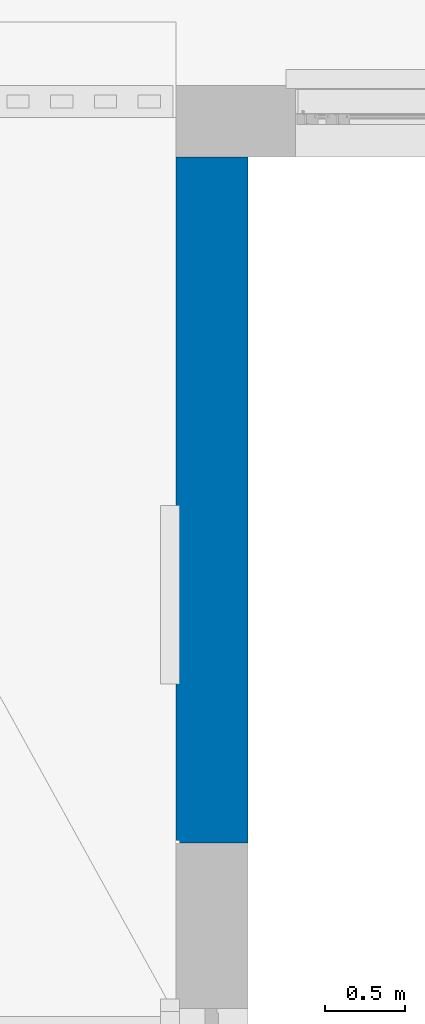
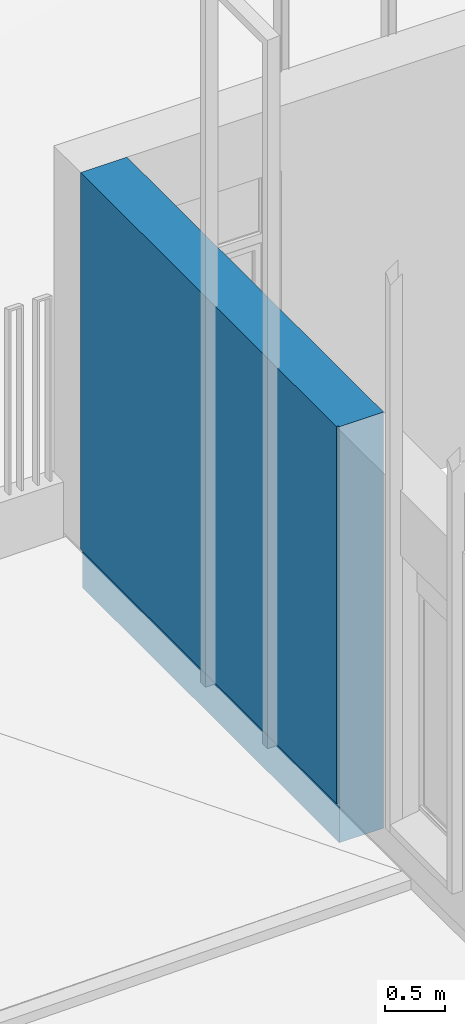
# One storey, part 22 of 77: 1 wall, 2 openings.
"""IFC2X3 building model written with IfcOpenShell, lengths in millimetres."""

from ifc_helpers import new_model, entity, si_unit, converted_unit, derived_unit, direction, frame, frame_2d, origin, place, context, subcontext, project, spatial, rectangle, extrude, faceted_brep, material, layer, layer_set, layer_usage, type_object, element, save


model = new_model("IFC2X3")

# Units and contexts
model_context = context("Model", 3, precision=0.01, world=origin(), true_north=direction((6.12303176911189e-17, 1.0)))
body_context = subcontext(model_context, "Body", "Model", "MODEL_VIEW")
ifc_project = project(units=[si_unit("LENGTHUNIT", "METRE", prefix="MILLI"), si_unit("AREAUNIT", "SQUARE_METRE"), si_unit("VOLUMEUNIT", "CUBIC_METRE"), converted_unit("PLANEANGLEUNIT", "DEGREE", entity("IfcRatioMeasure", 0.0174532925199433), si_unit("PLANEANGLEUNIT", "RADIAN"), dimensions=[0, 0, 0, 0, 0, 0, 0]), si_unit("MASSUNIT", "GRAM", prefix="KILO"), derived_unit("MASSDENSITYUNIT", [(si_unit("MASSUNIT", "GRAM", prefix="KILO"), 1), (si_unit("LENGTHUNIT", "METRE"), -3)]), si_unit("TIMEUNIT", "SECOND"), si_unit("FREQUENCYUNIT", "HERTZ"), si_unit("THERMODYNAMICTEMPERATUREUNIT", "DEGREE_CELSIUS"), derived_unit("THERMALTRANSMITTANCEUNIT", [(si_unit("MASSUNIT", "GRAM", prefix="KILO"), 1), (si_unit("THERMODYNAMICTEMPERATUREUNIT", "KELVIN"), -1), (si_unit("TIMEUNIT", "SECOND"), -3)]), derived_unit("VOLUMETRICFLOWRATEUNIT", [(si_unit("LENGTHUNIT", "METRE"), 3), (si_unit("TIMEUNIT", "SECOND"), -1)]), si_unit("ELECTRICCURRENTUNIT", "AMPERE"), si_unit("ELECTRICVOLTAGEUNIT", "VOLT"), si_unit("POWERUNIT", "WATT"), si_unit("FORCEUNIT", "NEWTON", prefix="KILO"), si_unit("ILLUMINANCEUNIT", "LUX"), si_unit("LUMINOUSFLUXUNIT", "LUMEN"), si_unit("LUMINOUSINTENSITYUNIT", "CANDELA"), derived_unit("USERDEFINED", [(si_unit("MASSUNIT", "GRAM", prefix="KILO"), -1), (si_unit("LENGTHUNIT", "METRE"), -2), (si_unit("TIMEUNIT", "SECOND"), 3), (si_unit("LUMINOUSFLUXUNIT", "LUMEN"), 1)]), derived_unit("LINEARVELOCITYUNIT", [(si_unit("LENGTHUNIT", "METRE"), 1), (si_unit("TIMEUNIT", "SECOND"), -1)]), si_unit("PRESSUREUNIT", "PASCAL"), derived_unit("USERDEFINED", [(si_unit("LENGTHUNIT", "METRE"), -2), (si_unit("MASSUNIT", "GRAM", prefix="KILO"), 1), (si_unit("TIMEUNIT", "SECOND"), -2)])], contexts=[model_context])

# Site, building, storey
site_placement = place(None, origin())
site = spatial("IfcSite", under=ifc_project, at=site_placement, Name="Default", CompositionType="ELEMENT")
building_placement = place(site_placement, origin())
building = spatial("IfcBuilding", under=site, at=building_placement, CompositionType="ELEMENT")
storey_placement = place(building_placement, origin())
storey = spatial("IfcBuildingStorey", under=building, at=storey_placement, Name="1. KORRUS", CompositionType="ELEMENT", Elevation=0.0)

# Wall, openings
ifc_material_1 = material(Name="RECKLI 1 173 THUR by Polantis 2016-toon4")
ifc_layer_1 = layer(ifc_material_1, 100.0)
ifc_material_2 = material(Name="Soojusisolatsioon EPS")
ifc_layer_2 = layer(ifc_material_2, 200.0)
ifc_material_3 = material(Name="r/b")
ifc_layer_3 = layer(ifc_material_3, 150.0)
ifc_layer_set = layer_set([ifc_layer_1, ifc_layer_2, ifc_layer_3], Name="Basic Wall:VS-1_toon-a")
ifc_layer_usage = layer_usage(ifc_layer_set, "AXIS2", "POSITIVE", -225.0)
wall_type = type_object("IfcWallType", Name="Basic Wall:VS-1_toon-a", PredefinedType="STANDARD", material=ifc_layer_set)
wall_placement = place(storey_placement, frame((-225.0, 27600.0, -400.0), z_axis=(0.0, 0.0, 1.0), x_axis=(0.0, -1.0, 0.0)))
wall = element("IfcWallStandardCase", 1, at=wall_placement, inside=storey, type_object=wall_type, material=ifc_layer_usage, Name="Basic Wall:VS-1_toon-a", ObjectType="Basic Wall:VS-1_toon-a", context=body_context, shape_type="SweptSolid", body=[
    extrude(rectangle(XDim=4310.0, YDim=450.0, at=frame_2d((2155.0, -2.8421709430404e-14), x_axis=(-1.0, 0.0))), origin(), (0.0, 0.0, 1.0), 4265.0),
])
opening_1_placement = place(wall_placement, origin())
element("IfcOpeningElement", 2, at=opening_1_placement, cuts=wall, Name="Basic Wall:VS-1_toon-a", ObjectType="Opening", context=body_context, shape_type="Brep", body=[
    faceted_brep([(-430.0, -205.0, 400.0), (-430.0, -205.0, 0.0), (-450.0, -225.0, 0.0), (-450.0, -225.0, 400.0), (4310.0, -205.0, 400.0), (4310.0, -225.0, 400.0), (4310.0, -225.0, 0.0), (4310.0, -205.0, 0.0)], [[[0, 1, 2, 3]], [[4, 5, 6, 7]], [[1, 0, 4, 7]], [[2, 1, 7, 6]], [[3, 2, 6, 5]], [[0, 3, 5, 4]]]),
    faceted_brep([(-430.0, -205.0, 400.0), (-450.0, -225.0, 400.0), (-450.0, -225.0, 0.0), (-430.0, -205.0, 0.0), (-430.0, 4135.0, 400.0), (-430.0, 4135.0, 0.0), (-450.0, 4135.0, 0.0), (-450.0, 4135.0, 400.0)], [[[0, 1, 2, 3]], [[4, 5, 6, 7]], [[1, 0, 4, 7]], [[2, 1, 7, 6]], [[3, 2, 6, 5]], [[0, 3, 5, 4]]]),
    faceted_brep([(-430.0, 9855.0, 400.0), (-450.0, 9875.0, 400.0), (-450.0, 9875.0, 0.0), (-430.0, 9855.0, 0.0), (5669.94821928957, 9855.0, 400.0), (5669.94821928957, 9855.0, 0.0), (5649.94821928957, 9875.0, 0.0), (5649.94821928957, 9875.0, 400.0)], [[[0, 1, 2, 3]], [[4, 5, 6, 7]], [[1, 0, 4, 7]], [[2, 1, 7, 6]], [[3, 2, 6, 5]], [[0, 3, 5, 4]]]),
    faceted_brep([(5669.94821928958, 14575.0, 400.0), (5649.94821928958, 14575.0, 400.0), (5649.94821928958, 14575.0, 0.0), (5669.94821928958, 14575.0, 0.0), (5669.94821928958, 15105.0, 400.0), (5669.94821928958, 15105.0, 0.0), (5649.94821928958, 15105.0, 0.0), (5649.94821928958, 15105.0, 400.0)], [[[0, 1, 2, 3]], [[4, 5, 6, 7]], [[1, 0, 4, 7]], [[2, 1, 7, 6]], [[3, 2, 6, 5]], [[0, 3, 5, 4]]]),
    faceted_brep([(5669.94821928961, 40155.0, 400.0), (5649.94821928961, 40175.0, 400.0), (5649.94821928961, 40175.0, 0.0), (5669.94821928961, 40155.0, 0.0), (11810.0, 40155.0, 400.0), (11810.0, 40155.0, 0.0), (11810.0, 40175.0, 0.0), (11810.0, 40175.0, 400.0)], [[[0, 1, 2, 3]], [[4, 5, 6, 7]], [[1, 0, 4, 7]], [[2, 1, 7, 6]], [[3, 2, 6, 5]], [[0, 3, 5, 4]]]),
    faceted_brep([(28030.0, 40155.0, 400.0), (28050.0, 40175.0, 400.0), (28050.0, 40175.0, 0.0), (28030.0, 40155.0, 0.0), (28030.0, 35025.0, 400.0), (28030.0, 35025.0, 0.0), (28050.0, 35025.0, 0.0), (28050.0, 35025.0, 400.0)], [[[0, 1, 2, 3]], [[4, 5, 6, 7]], [[1, 0, 4, 7]], [[2, 1, 7, 6]], [[3, 2, 6, 5]], [[0, 3, 5, 4]]]),
    faceted_brep([(28030.0, 11625.0, 400.0), (28050.0, 11625.0, 400.0), (28050.0, 11625.0, 0.0), (28030.0, 11625.0, 0.0), (28030.0, 7840.0, 400.0), (28030.0, 7840.0, 0.0), (28050.0, 7840.0, 0.0), (28050.0, 7840.0, 400.0)], [[[0, 1, 2, 3]], [[4, 5, 6, 7]], [[1, 0, 4, 7]], [[2, 1, 7, 6]], [[3, 2, 6, 5]], [[0, 3, 5, 4]]]),
    faceted_brep([(14840.0, 40155.0, 400.0), (14840.0, 40175.0, 400.0), (14840.0, 40175.0, 0.0), (14840.0, 40155.0, 0.0), (18956.67, 40155.0, 400.0), (18956.67, 40155.0, 0.0), (18956.67, 40175.0, 0.0), (18956.67, 40175.0, 400.0)], [[[0, 1, 2, 3]], [[4, 5, 6, 7]], [[1, 0, 4, 7]], [[2, 1, 7, 6]], [[3, 2, 6, 5]], [[0, 3, 5, 4]]]),
    faceted_brep([(28030.0, 31425.0, 400.0), (28050.0, 31425.0, 400.0), (28050.0, 31425.0, 0.0), (28030.0, 31425.0, 0.0), (28030.0, 29025.0, 400.0), (28030.0, 29025.0, 0.0), (28050.0, 29025.0, 0.0), (28050.0, 29025.0, 400.0)], [[[0, 1, 2, 3]], [[4, 5, 6, 7]], [[1, 0, 4, 7]], [[2, 1, 7, 6]], [[3, 2, 6, 5]], [[0, 3, 5, 4]]]),
    faceted_brep([(28030.0, 4015.030823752, 400.0), (28050.0, 4015.030823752, 400.0), (28050.0, 4015.030823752, 0.0), (28030.0, 4015.030823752, 0.0), (28030.0, 1530.030823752, 400.0), (28030.0, 1530.030823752, 0.0), (28050.0, 1530.030823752, 0.0), (28050.0, 1530.030823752, 400.0)], [[[0, 1, 2, 3]], [[4, 5, 6, 7]], [[1, 0, 4, 7]], [[2, 1, 7, 6]], [[3, 2, 6, 5]], [[0, 3, 5, 4]]]),
    faceted_brep([(28030.0, 16225.0, 400.0), (28050.0, 16225.0, 400.0), (28050.0, 16225.0, 0.0), (28030.0, 16225.0, 0.0), (28030.0, 15225.0, 400.0), (28030.0, 15225.0, 0.0), (28050.0, 15225.0, 0.0), (28050.0, 15225.0, 400.0)], [[[0, 1, 2, 3]], [[4, 5, 6, 7]], [[1, 0, 4, 7]], [[2, 1, 7, 6]], [[3, 2, 6, 5]], [[0, 3, 5, 4]]]),
    faceted_brep([(28030.0, 20825.0316629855, 400.0), (28050.0, 20825.0316629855, 400.0), (28050.0, 20825.0316629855, 0.0), (28030.0, 20825.0316629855, 0.0), (28030.0, 19825.0, 400.0), (28030.0, 19825.0, 0.0), (28050.0, 19825.0, 0.0), (28050.0, 19825.0, 400.0)], [[[0, 1, 2, 3]], [[4, 5, 6, 7]], [[1, 0, 4, 7]], [[2, 1, 7, 6]], [[3, 2, 6, 5]], [[0, 3, 5, 4]]]),
    faceted_brep([(28030.0, 25425.0316629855, 400.0), (28050.0, 25425.0316629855, 400.0), (28050.0, 25425.0316629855, 0.0), (28030.0, 25425.0316629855, 0.0), (28030.0, 24425.0, 400.0), (28030.0, 24425.0, 0.0), (28050.0, 24425.0, 0.0), (28050.0, 24425.0, 400.0)], [[[0, 1, 2, 3]], [[4, 5, 6, 7]], [[1, 0, 4, 7]], [[2, 1, 7, 6]], [[3, 2, 6, 5]], [[0, 3, 5, 4]]]),
    faceted_brep([(23185.0, 40155.0, 400.0), (23185.0, 40175.0, 400.0), (23185.0, 40175.0, 0.0), (23185.0, 40155.0, 0.0), (28030.0, 40155.0, 400.0), (28030.0, 40155.0, 0.0), (28050.0, 40175.0, 0.0), (28050.0, 40175.0, 400.0)], [[[0, 1, 2, 3]], [[4, 5, 6, 7]], [[1, 0, 4, 7]], [[2, 1, 7, 6]], [[3, 2, 6, 5]], [[0, 3, 5, 4]]]),
    faceted_brep([(18956.67, 40155.0, 400.0), (18956.67, 40175.0, 400.0), (18956.67, 40175.0, 0.0), (18956.67, 40155.0, 0.0), (23185.0, 40155.0, 400.0), (23185.0, 40155.0, 0.0), (23185.0, 40175.0, 0.0), (23185.0, 40175.0, 400.0)], [[[0, 1, 2, 3]], [[4, 5, 6, 7]], [[1, 0, 4, 7]], [[2, 1, 7, 6]], [[3, 2, 6, 5]], [[0, 3, 5, 4]]]),
    faceted_brep([(11810.0, 40155.0, 400.0), (11810.0, 40175.0, 400.0), (11810.0, 40175.0, 0.0), (11810.0, 40155.0, 0.0), (14840.0, 40155.0, 400.0), (14840.0, 40155.0, 0.0), (14840.0, 40175.0, 0.0), (14840.0, 40175.0, 400.0)], [[[0, 1, 2, 3]], [[4, 5, 6, 7]], [[1, 0, 4, 7]], [[2, 1, 7, 6]], [[3, 2, 6, 5]], [[0, 3, 5, 4]]]),
    faceted_brep([(5669.9482192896, 34195.1035702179, 400.0), (5649.9482192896, 34195.1035702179, 400.0), (5649.9482192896, 34195.1035702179, 0.0), (5669.9482192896, 34195.1035702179, 0.0), (5669.94821928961, 40155.0, 400.0), (5669.94821928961, 40155.0, 0.0), (5649.94821928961, 40175.0, 0.0), (5649.94821928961, 40175.0, 400.0)], [[[0, 1, 2, 3]], [[4, 5, 6, 7]], [[1, 0, 4, 7]], [[2, 1, 7, 6]], [[3, 2, 6, 5]], [[0, 3, 5, 4]]]),
    faceted_brep([(5669.94821928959, 28888.2161487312, 400.0), (5649.94821928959, 28888.2161487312, 400.0), (5649.94821928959, 28888.2161487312, 0.0), (5669.94821928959, 28888.2161487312, 0.0), (5669.9482192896, 34195.1035702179, 400.0), (5669.9482192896, 34195.1035702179, 0.0), (5649.9482192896, 34195.1035702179, 0.0), (5649.9482192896, 34195.1035702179, 400.0)], [[[0, 1, 2, 3]], [[4, 5, 6, 7]], [[1, 0, 4, 7]], [[2, 1, 7, 6]], [[3, 2, 6, 5]], [[0, 3, 5, 4]]]),
    faceted_brep([(28030.0, 7840.0, 400.0), (28050.0, 7840.0, 400.0), (28050.0, 7840.0, 0.0), (28030.0, 7840.0, 0.0), (28030.0, 4015.030823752, 400.0), (28030.0, 4015.030823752, 0.0), (28050.0, 4015.030823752, 0.0), (28050.0, 4015.030823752, 400.0)], [[[0, 1, 2, 3]], [[4, 5, 6, 7]], [[1, 0, 4, 7]], [[2, 1, 7, 6]], [[3, 2, 6, 5]], [[0, 3, 5, 4]]]),
    faceted_brep([(5669.94821928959, 22310.0, 400.0), (5649.94821928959, 22310.0, 400.0), (5649.94821928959, 22310.0, 0.0), (5669.94821928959, 22310.0, 0.0), (5669.94821928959, 28888.2161487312, 400.0), (5669.94821928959, 28888.2161487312, 0.0), (5649.94821928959, 28888.2161487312, 0.0), (5649.94821928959, 28888.2161487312, 400.0)], [[[0, 1, 2, 3]], [[4, 5, 6, 7]], [[1, 0, 4, 7]], [[2, 1, 7, 6]], [[3, 2, 6, 5]], [[0, 3, 5, 4]]]),
    faceted_brep([(5669.94821928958, 18478.3528910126, 400.0), (5649.94821928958, 18478.3528910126, 400.0), (5649.94821928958, 18478.3528910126, 0.0), (5669.94821928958, 18478.3528910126, 0.0), (5669.94821928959, 22310.0, 400.0), (5669.94821928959, 22310.0, 0.0), (5649.94821928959, 22310.0, 0.0), (5649.94821928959, 22310.0, 400.0)], [[[0, 1, 2, 3]], [[4, 5, 6, 7]], [[1, 0, 4, 7]], [[2, 1, 7, 6]], [[3, 2, 6, 5]], [[0, 3, 5, 4]]]),
    faceted_brep([(5669.94821928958, 15105.0, 400.0), (5649.94821928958, 15105.0, 400.0), (5649.94821928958, 15105.0, 0.0), (5669.94821928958, 15105.0, 0.0), (5669.94821928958, 18478.3528910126, 400.0), (5669.94821928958, 18478.3528910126, 0.0), (5649.94821928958, 18478.3528910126, 0.0), (5649.94821928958, 18478.3528910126, 400.0)], [[[0, 1, 2, 3]], [[4, 5, 6, 7]], [[1, 0, 4, 7]], [[2, 1, 7, 6]], [[3, 2, 6, 5]], [[0, 3, 5, 4]]]),
    faceted_brep([(-430.0, 4135.0, 400.0), (-450.0, 4135.0, 400.0), (-450.0, 4135.0, 0.0), (-430.0, 4135.0, 0.0), (-430.0, 9855.0, 400.0), (-430.0, 9855.0, 0.0), (-450.0, 9875.0, 0.0), (-450.0, 9875.0, 400.0)], [[[0, 1, 2, 3]], [[4, 5, 6, 7]], [[1, 0, 4, 7]], [[2, 1, 7, 6]], [[3, 2, 6, 5]], [[0, 3, 5, 4]]]),
    faceted_brep([(4310.0, -205.0, 400.0), (4310.0, -205.0, 0.0), (4310.0, -225.0, 0.0), (4310.0, -225.0, 400.0), (9859.99930276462, -205.0, 400.0), (9859.99930276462, -225.0, 400.0), (9859.99930276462, -225.0, 0.0), (9859.99930276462, -205.0, 0.0)], [[[0, 1, 2, 3]], [[4, 5, 6, 7]], [[1, 0, 4, 7]], [[2, 1, 7, 6]], [[3, 2, 6, 5]], [[0, 3, 5, 4]]]),
    faceted_brep([(9859.99930276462, -205.0, 400.0), (9859.99930276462, -205.0, 0.0), (9859.99930276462, -225.0, 0.0), (9859.99930276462, -225.0, 400.0), (14800.0, -205.0, 400.0), (14800.0, -225.0, 400.0), (14800.0, -225.0, 0.0), (14800.0, -205.0, 0.0)], [[[0, 1, 2, 3]], [[4, 5, 6, 7]], [[1, 0, 4, 7]], [[2, 1, 7, 6]], [[3, 2, 6, 5]], [[0, 3, 5, 4]]]),
    faceted_brep([(5669.94821928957, 9855.0, 400.0), (5649.94821928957, 9875.0, 400.0), (5649.94821928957, 9875.0, 0.0), (5669.94821928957, 9855.0, 0.0), (5669.94821928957, 10975.0, 400.0), (5669.94821928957, 10975.0, 0.0), (5649.94821928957, 10975.0, 0.0), (5649.94821928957, 10975.0, 400.0)], [[[0, 1, 2, 3]], [[4, 5, 6, 7]], [[1, 0, 4, 7]], [[2, 1, 7, 6]], [[3, 2, 6, 5]], [[0, 3, 5, 4]]]),
])
opening_2_placement = place(wall_placement, origin())
element("IfcOpeningElement", 3, at=opening_2_placement, cuts=wall, Name="Basic Wall:VS-1_toon-a", ObjectType="Recess", context=body_context, shape_type="SweptSolid", body=[
    extrude(rectangle(XDim=4265.0, YDim=16.0000000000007, at=frame_2d((0.0, -2.16626716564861e-12), x_axis=(1.0, 0.0))), frame((4301.9988227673, -225.0, 2132.5), z_axis=(0.0, 1.0, 0.0), x_axis=(0.0, 0.0, -1.0)), (0.0, 0.0, 1.0), 20.0),
    extrude(rectangle(XDim=4835.0, YDim=16.0000000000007, at=frame_2d((4.54747350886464e-13, -2.16626716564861e-12), x_axis=(1.0, 0.0))), frame((4301.9988227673, -225.0, 6682.5), z_axis=(0.0, 1.0, 0.0), x_axis=(0.0, 0.0, -1.0)), (0.0, 0.0, 1.0), 20.0),
])

save(model, "model.ifc")
